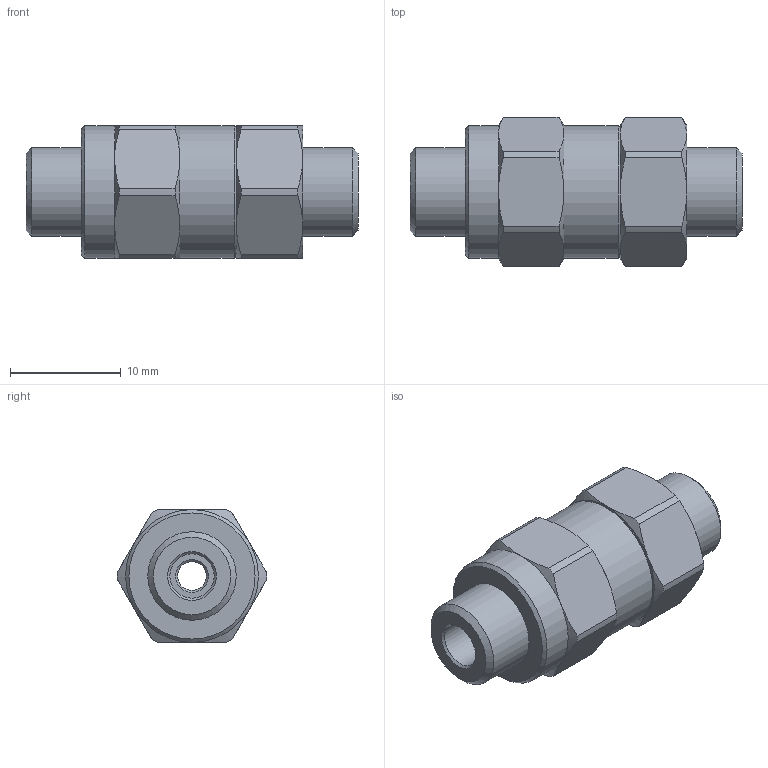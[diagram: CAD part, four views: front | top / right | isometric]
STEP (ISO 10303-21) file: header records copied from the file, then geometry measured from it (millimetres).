
FILE_DESCRIPTION(('STEP AP214'),'1');
FILE_NAME('BVP-10-A40.stp','2026-02-02T07:58:52',(' '),(' '),'Spatial InterOp 3D',' ',' ');
FILE_SCHEMA(('AUTOMOTIVE_DESIGN { 1 0 10303 214 1 1 1 1 }'));
Length unit declared in the file: millimetre
Products named in the file (1): BVP-10-A40
Bounding box: 30 x 13.5 x 12 mm (x, y, z)
Volume: 2575.1 mm3; surface area: 1686.2 mm2
Topology: 1 solids, 3 shells, 77 faces, 175 edges, 108 vertices
Faces by surface type: cone 33, plane 22, cylinder 22
Full cylindrical faces by diameter (mm): 2.6 x1, 4 x2, 8 x4, 8.1 x1, 12 x2
Entity records: 3183 total; most frequent: CARTESIAN_POINT 504, DIRECTION 330, ORIENTED_EDGE 294, STYLED_ITEM 180, PRESENTATION_STYLE_ASSIGNMENT 180, COLOUR_RGB 180, AXIS2_PLACEMENT_3D 153, EDGE_CURVE 147
